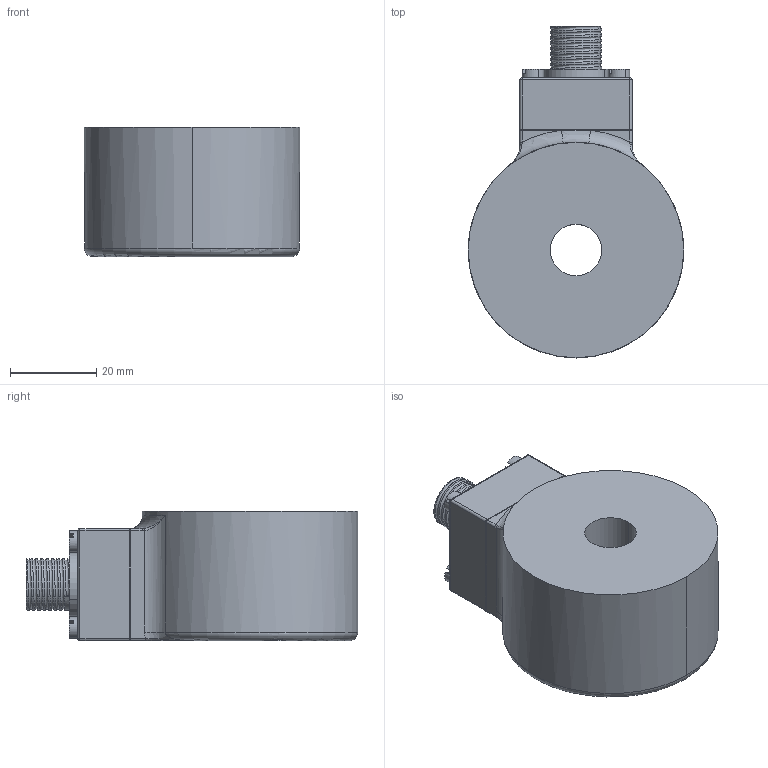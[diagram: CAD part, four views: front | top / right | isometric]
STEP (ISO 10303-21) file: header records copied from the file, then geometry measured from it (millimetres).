
FILE_DESCRIPTION (( 'STEP AP214' ), '1' );
FILE_NAME ('drawing-oc-5-tr-300-anm-tc012t-z-prq-n.STEP', '2022-01-06T12:54:44', ( '' ), ( '' ), 'SwSTEP 2.0', 'SolidWorks 2021', '' );
FILE_SCHEMA (( 'AUTOMOTIVE_DESIGN' ));
Length unit declared in the file: millimetre
Products named in the file (1): drawing-oc-5-tr-300-anm-tc012t-z-prq-n
Bounding box: 50 x 77 x 30 mm (x, y, z)
Volume: 35066.2 mm3; surface area: 24451 mm2
Topology: 9 solids, 9 shells, 354 faces, 819 edges, 506 vertices
Faces by surface type: cylinder 169, plane 108, torus 43, bspline 20, sphere 8, cone 6
Entity records: 16955 total; most frequent: CARTESIAN_POINT 4868, DIRECTION 1806, ORIENTED_EDGE 1606, EDGE_CURVE 803, AXIS2_PLACEMENT_3D 754, VERTEX_POINT 506, CIRCLE 419, EDGE_LOOP 411
